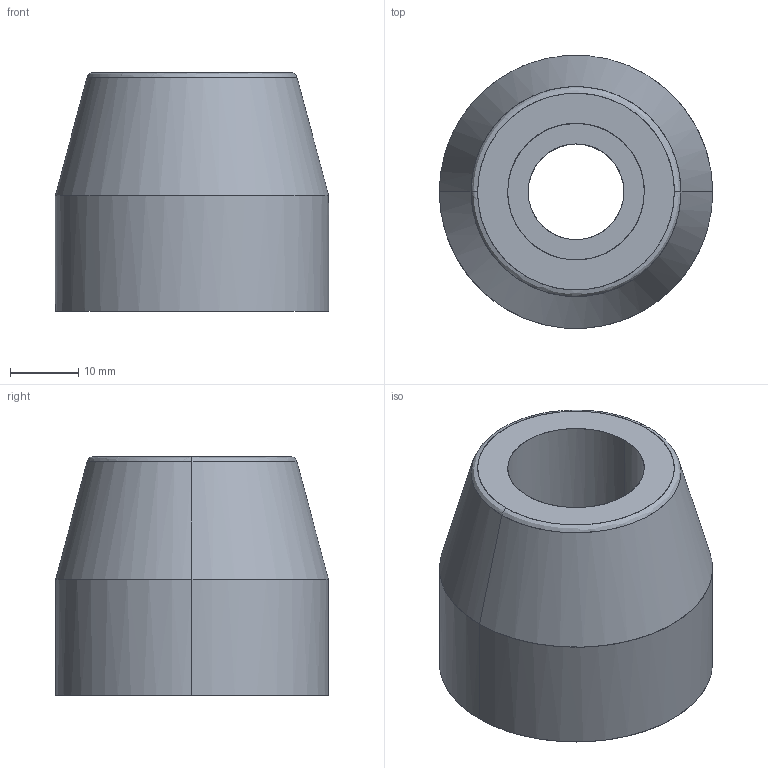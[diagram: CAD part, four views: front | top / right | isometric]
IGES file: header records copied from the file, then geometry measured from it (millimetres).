
Global section: file name: E:\UnigraphicsGraphicData\MISUMI_PRESS-PARTS\IGES\3d_lpu40-35_01659_r00.igs; native system: NX V5.0; preprocessor: UGS NX IGES V5.0; author: MISUMI; date: 20110105.161229; units: millimetre
Bounding box: 40 x 40 x 35 mm (x, y, z)
Surface area: 7667.7 mm2 (no closed solid volume)
Topology: 0 solids, 0 shells, 13 faces, 104 edges, 104 vertices
Faces by surface type: bspline 13
